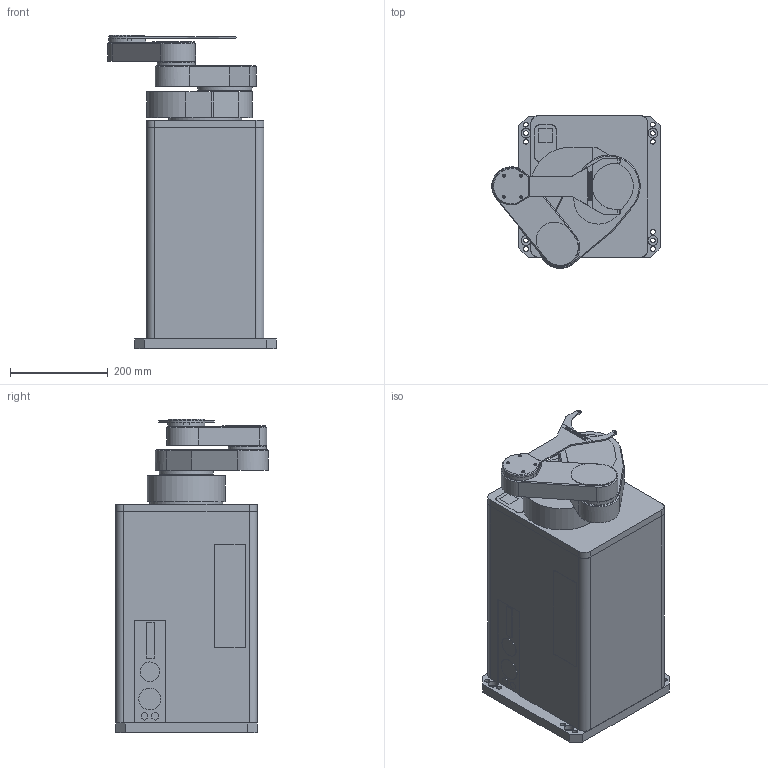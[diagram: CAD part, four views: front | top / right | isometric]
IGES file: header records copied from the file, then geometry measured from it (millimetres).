
Global section: file name: MCR3160C-300-AM-07055A; native system: Autodesk Inventor 2016; preprocessor: unknown; author: m-takamori; date: 20160330.130717; units: millimetre
Bounding box: 344.88 x 312.83 x 642 mm (x, y, z)
Volume: 36350724.7 mm3; surface area: 1225176.2 mm2
Topology: 7 solids, 7 shells, 284 faces, 726 edges, 482 vertices
Faces by surface type: bspline 284
